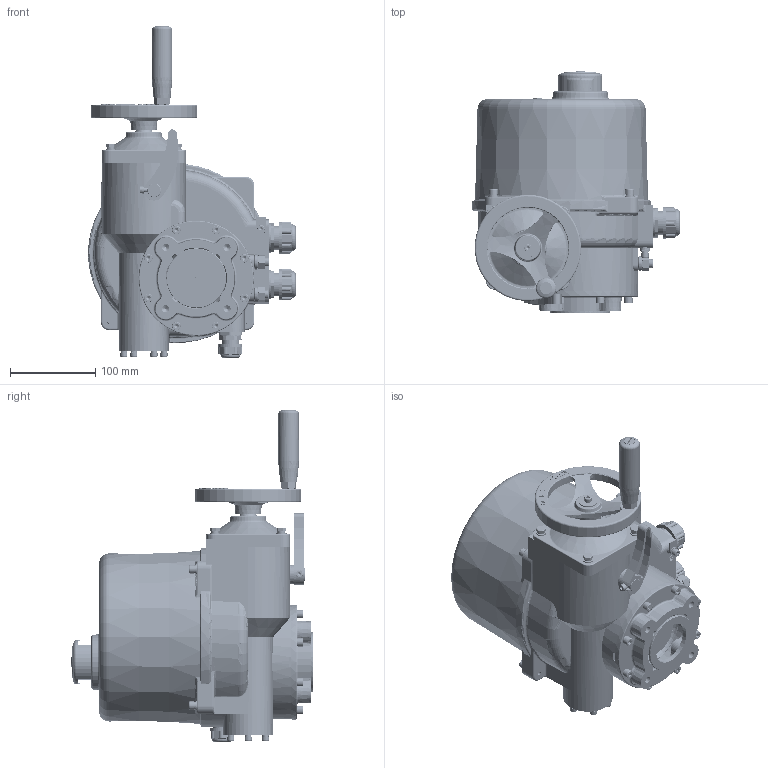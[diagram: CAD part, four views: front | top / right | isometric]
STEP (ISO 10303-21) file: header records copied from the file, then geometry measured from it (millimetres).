
FILE_DESCRIPTION(('STEP AP242'), '1');
FILE_NAME('8102', '', ('UNSPECIFIED'), ('UNSPECIFIED'), 'C3D Converter', 'C3D Toolkit', '');
FILE_SCHEMA(('AP242_MANAGED_MODEL_BASED_3D_ENGINEERING_MIM_LF { 1 0 10303 442 1 1 4 }'));
Length unit declared in the file: millimetre
Products named in the file (1): ГЗ-ОФ (М)
Bounding box: 243.88 x 284.87 x 389.6 mm (x, y, z)
Volume: 109542.7 mm3; surface area: 705681.1 mm2
Topology: 3 solids, 66 shells, 5977 faces, 16695 edges, 10973 vertices
Faces by surface type: plane 3258, cylinder 1084, bspline 928, cone 437, torus 260, sphere 10
Full cylindrical faces by diameter (mm): 2.459 x1, 2.5 x2, 2.675 x3, 3 x3, 3.2 x2, 3.242 x4, 3.545 x3, 4 x43, 4.134 x8, 4.2 x2, 4.3 x2, 4.5 x1, 4.917 x24, 5 x11, 5.3 x1, 5.459 x1, 5.5 x7, 6 x25, 6.2 x1, 6.3 x2, 6.4 x8, 6.647 x4, 7 x22, 7.5 x3, 8.376 x4, 8.5 x9, 8.9 x4, 9 x3, 10 x23, 10.2 x1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
Entity records: 345539 total; most frequent: CARTESIAN_POINT 154864, ORIENTED_EDGE 31775, DIRECTION 25537, EDGE_CURVE 15906, VERTEX_POINT 10843, AXIS2_PLACEMENT_3D 9026, LINE 7485, VECTOR 7485
